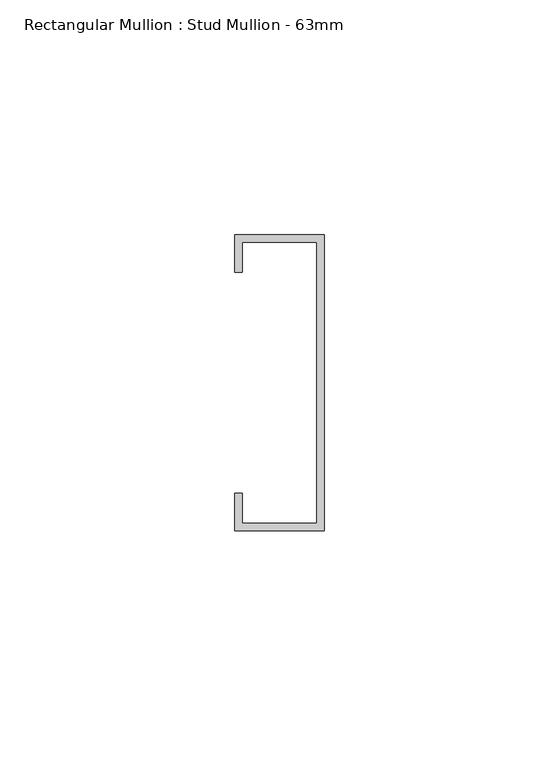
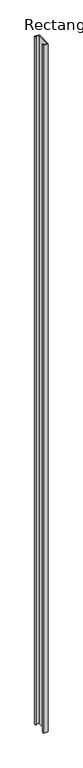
"""IFC4 building model written with IfcOpenShell, lengths in millimetres: member geometry, Rectangular Mullion : Stud Mullion - 63mm."""

from ifc_helpers import new_model, si_unit, frame, origin, place, context, project, spatial, polyline, outline, extrude, source, transform, mapped, element, save


def rectangular_mullion_stud_mullion_63mm_2c4afd4c(model_context):
    return source(origin(), model_context, "Body", "SweptSolid", [
        extrude(outline(polyline([(-19.0, 23.5), (-19.0, 31.5), (0.0, 31.5), (0.0, -31.5), (-19.0, -31.5), (-19.0, -23.5), (-17.4, -23.5), (-17.4, -29.9), (-1.6, -29.9), (-1.6, 29.9), (-17.4, 29.9), (-17.4, 23.5), (-19.0, 23.5)])), frame((0.0, 0.0, -3000.0), z_axis=(0.0, 0.0, 1.0), x_axis=(1.0, 0.0, 0.0)), (0.0, 0.0, 1.0), 3000.0),
    ])


if __name__ == "__main__":
    model = new_model("IFC4")
    model_context = context("Model", 3, world=origin())
    ifc_project = project(units=[si_unit("LENGTHUNIT", "METRE", prefix="MILLI")], contexts=[model_context])
    site = spatial("IfcSite", under=ifc_project)
    building = spatial("IfcBuilding", under=site)
    placement = place(None, origin())
    rectangular_mullion_stud_mullion_63mm_shape = rectangular_mullion_stud_mullion_63mm_2c4afd4c(model_context)
    element("IfcMember", 1, ObjectType="Rectangular Mullion : Stud Mullion - 63mm", at=placement, inside=building, context=model_context, shape_type="MappedRepresentation", body=[
        mapped(rectangular_mullion_stud_mullion_63mm_shape, transform((0.0, 0.0, 0.0), x_axis=(1.0, 0.0, 0.0), y_axis=(0.0, 1.0, 0.0), z_axis=(0.0, 0.0, 1.0))),
    ])
    save(model, "model.ifc")
